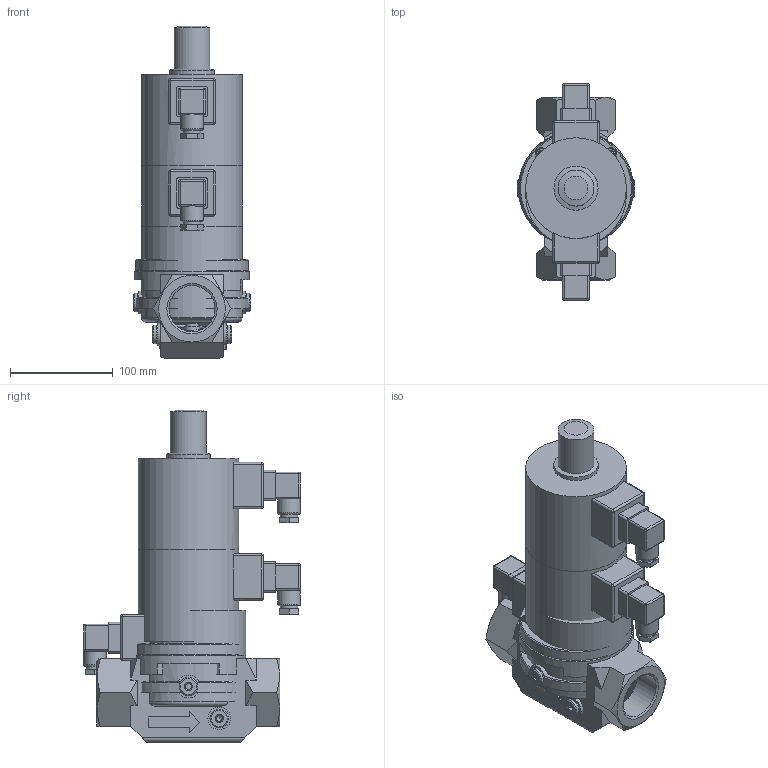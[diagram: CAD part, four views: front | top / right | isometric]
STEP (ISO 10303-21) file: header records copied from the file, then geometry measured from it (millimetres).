
FILE_DESCRIPTION( ( 'Unknown' ), '1' );
FILE_NAME( 'D:/Wyroby/Widoki gabarytowe/Zawory ZED/ZED_40/ZED_40.stp', 'Unknown', ( 'Unknown' ), ( 'Unknown' ), 'XStep 1.0', 'Unknown', ' ' );
FILE_SCHEMA( ( 'CONFIG_CONTROL_DESIGN' ) );
Length unit declared in the file: millimetre
Products named in the file (58): Wa_147_01_00; Wa_020_01_01z_korkami; Assem1; Wa_148_01_01; Wa_150_01_02; Wa_020_01_02; Wa_031_01_04_002got; Wa_031_01_04_001; Wa_150_01_02_001; Wa_148_01_02_002got.; Wa_020_01_02_001zaci從i黎y; Wa_020_01_02_003zaci從i黎a; Wa_020_01_02_002; Wa_020_01_01_001gotowe; Wa_148_01_01_001; Wa_148_01_01_002; Wa_031_01_00_006; Wa_020_01_04; Wa_020_01_00_001; Wa_031_01_00_012; Wa_031_01_00_010; Œ-008ImbusM6x16; T-026; K-006got.; Wa_148_01_00_008; Wa_148_01_00_007; Wa_148_01_00_001; Wa_031_01_00_003; Wa_148_01_00_010; Wa_148_01_00_004; Wa_148_01_00_002; Wa_148_01_00_003; Wa_148_01_00_009; Wa_145_01_00_009; Wa_148_01_00_005; Oring75x3彡i從.; Oring32x2,5彡i從.; Oring12x2彡i從i黎y; Oring6x2彡i從.; Wa_020_01_00_002彡i從i黎y30,5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
Bounding box: 114 x 211 x 323 mm (x, y, z)
Volume: 5775596 mm3; surface area: 1320743.2 mm2
Topology: 165 solids, 165 shells, 2739 faces, 6088 edges, 3889 vertices
Faces by surface type: plane 1336, cylinder 814, cone 475, torus 69, sphere 42, bspline 3
Full cylindrical faces by diameter (mm): 2 x9, 2.1 x8, 2.5 x10, 4.8 x7, 4.917 x24, 6 x22, 6.1 x3, 6.5 x15, 6.6 x12, 6.917 x6, 8 x11, 8.2 x15, 9 x4, 9.7 x15, 10 x15, 11 x15, 11.445 x16, 11.5 x3, 12.5 x9, 12.7 x6, 12.917 x6, 13 x12, 13.8 x12, 14 x6, 15.5 x9, 16 x6, 16.2 x3, 17 x8, 18 x24, 20 x4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
Entity records: 25499 total; most frequent: CARTESIAN_POINT 5858, DIRECTION 3752, ORIENTED_EDGE 2772, AXIS2_PLACEMENT_3D 1593, EDGE_CURVE 1386, EDGE_LOOP 1361, VERTEX_POINT 1073, FACE_OUTER_BOUND 1061
